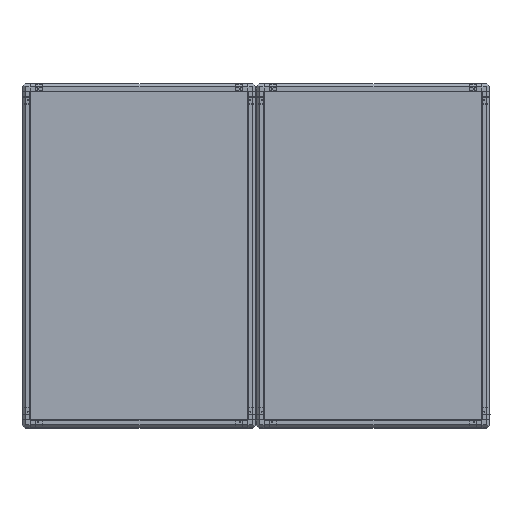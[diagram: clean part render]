
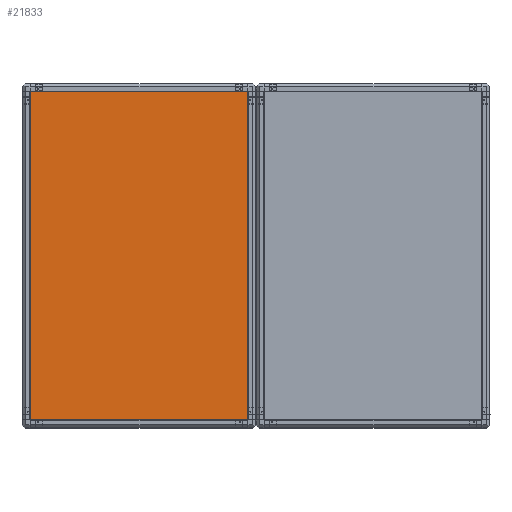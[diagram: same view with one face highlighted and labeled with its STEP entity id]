
A CAD part, top view. The second image highlights one B-rep face of the part: STEP entity #21833.
In plain terms, the highlighted planar face has unit normal (0, 0, 1).
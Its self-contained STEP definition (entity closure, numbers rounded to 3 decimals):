
#4033=FACE_OUTER_BOUND('',#5397,.T.);
#5397=EDGE_LOOP('',(#20091,#20092,#20093,#20094));
#6939=LINE('',#55535,#8489);
#6943=LINE('',#55542,#8493);
#6946=LINE('',#55548,#8496);
#6948=LINE('',#55551,#8498);
#8489=VECTOR('',#30582,1000.);
#8493=VECTOR('',#30588,1000.);
#8496=VECTOR('',#30593,1000.);
#8498=VECTOR('',#30597,1000.);
#10604=VERTEX_POINT('',#55532);
#10605=VERTEX_POINT('',#55534);
#10607=VERTEX_POINT('',#55540);
#10609=VERTEX_POINT('',#55546);
#13763=EDGE_CURVE('',#10605,#10604,#6939,.T.);
#13767=EDGE_CURVE('',#10604,#10607,#6943,.T.);
#13770=EDGE_CURVE('',#10607,#10609,#6946,.T.);
#13772=EDGE_CURVE('',#10609,#10605,#6948,.T.);
#20091=ORIENTED_EDGE('',*,*,#13763,.T.);
#20092=ORIENTED_EDGE('',*,*,#13767,.T.);
#20093=ORIENTED_EDGE('',*,*,#13770,.T.);
#20094=ORIENTED_EDGE('',*,*,#13772,.T.);
#20676=PLANE('',#24430);
#21833=ADVANCED_FACE('',(#4033),#20676,.T.);
#24430=AXIS2_PLACEMENT_3D('',#55552,#30598,#30599);
#30582=DIRECTION('',(0.,-1.,0.));
#30588=DIRECTION('',(1.,0.,0.));
#30593=DIRECTION('',(0.,1.,0.));
#30597=DIRECTION('',(-1.,0.,0.));
#30598=DIRECTION('center_axis',(0.,0.,1.));
#30599=DIRECTION('ref_axis',(1.,0.,0.));
#55532=CARTESIAN_POINT('',(-606.,-401.5,25.));
#55534=CARTESIAN_POINT('',(-606.,401.5,25.));
#55535=CARTESIAN_POINT('',(-606.,-401.5,25.));
#55540=CARTESIAN_POINT('',(606.,-401.5,25.));
#55542=CARTESIAN_POINT('',(606.,-401.5,25.));
#55546=CARTESIAN_POINT('',(606.,401.5,25.));
#55548=CARTESIAN_POINT('',(606.,-401.5,25.));
#55551=CARTESIAN_POINT('',(606.,401.5,25.));
#55552=CARTESIAN_POINT('Origin',(0.,0.,25.));
